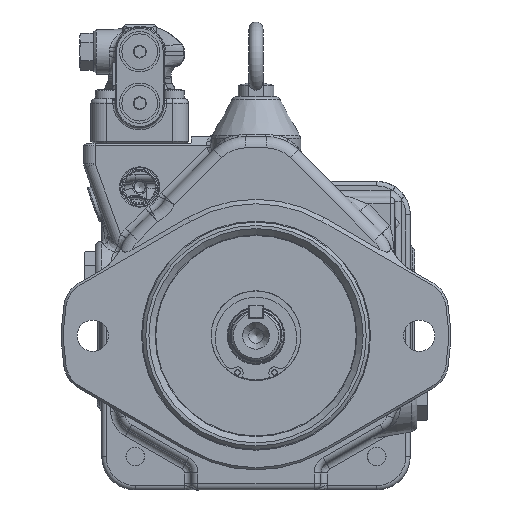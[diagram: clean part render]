
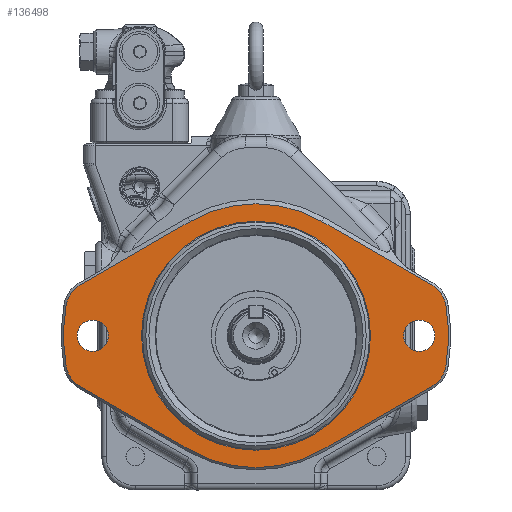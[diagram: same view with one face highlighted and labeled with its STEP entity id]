
A CAD part, front view. The second image highlights one B-rep face of the part: STEP entity #136498.
In plain terms, the highlighted planar face has unit normal (0, -1, 0).
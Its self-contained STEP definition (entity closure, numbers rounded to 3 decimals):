
#2661=FACE_BOUND('',#15117,.T.);
#2662=FACE_BOUND('',#15118,.T.);
#2663=FACE_BOUND('',#15119,.T.);
#8256=FACE_OUTER_BOUND('',#15116,.T.);
#15116=EDGE_LOOP('',(#113490,#113491,#113492,#113493,#113494,#113495,#113496,
#113497,#113498,#113499,#113500,#113501));
#15117=EDGE_LOOP('',(#113502));
#15118=EDGE_LOOP('',(#113503));
#15119=EDGE_LOOP('',(#113504));
#16539=CIRCLE('',#142835,86.);
#16541=CIRCLE('',#142838,13.);
#16543=CIRCLE('',#142841,13.);
#16545=CIRCLE('',#142844,59.);
#16848=CIRCLE('',#143489,59.);
#16849=CIRCLE('',#143492,13.);
#16850=CIRCLE('',#143494,86.);
#16851=CIRCLE('',#143496,13.);
#16870=CIRCLE('',#143528,7.);
#16871=CIRCLE('',#143529,7.);
#16872=CIRCLE('',#143530,51.2);
#32282=LINE('',#209617,#48560);
#32342=LINE('',#209902,#48620);
#32714=LINE('',#214752,#48992);
#32717=LINE('',#214760,#48995);
#48560=VECTOR('',#170168,10.);
#48620=VECTOR('',#170374,10.);
#48992=VECTOR('',#171882,10.);
#48995=VECTOR('',#171891,10.);
#60288=VERTEX_POINT('',#209587);
#60289=VERTEX_POINT('',#209588);
#60292=VERTEX_POINT('',#209596);
#60294=VERTEX_POINT('',#209602);
#60296=VERTEX_POINT('',#209608);
#60297=VERTEX_POINT('',#209609);
#60385=VERTEX_POINT('',#209901);
#60916=VERTEX_POINT('',#214751);
#60917=VERTEX_POINT('',#214755);
#60918=VERTEX_POINT('',#214759);
#60919=VERTEX_POINT('',#214763);
#60920=VERTEX_POINT('',#214767);
#60941=VERTEX_POINT('',#214838);
#60942=VERTEX_POINT('',#214840);
#60943=VERTEX_POINT('',#214842);
#77618=EDGE_CURVE('',#60288,#60289,#16539,.T.);
#77622=EDGE_CURVE('',#60289,#60292,#16541,.T.);
#77625=EDGE_CURVE('',#60294,#60288,#16543,.T.);
#77628=EDGE_CURVE('',#60296,#60297,#16545,.T.);
#77632=EDGE_CURVE('',#60292,#60296,#32282,.T.);
#77743=EDGE_CURVE('',#60297,#60385,#32342,.T.);
#78656=EDGE_CURVE('',#60916,#60294,#32714,.T.);
#78658=EDGE_CURVE('',#60917,#60916,#16848,.T.);
#78660=EDGE_CURVE('',#60918,#60917,#32717,.T.);
#78662=EDGE_CURVE('',#60919,#60918,#16849,.T.);
#78664=EDGE_CURVE('',#60920,#60919,#16850,.T.);
#78666=EDGE_CURVE('',#60385,#60920,#16851,.T.);
#78700=EDGE_CURVE('',#60941,#60941,#16870,.T.);
#78701=EDGE_CURVE('',#60942,#60942,#16871,.T.);
#78702=EDGE_CURVE('',#60943,#60943,#16872,.T.);
#113490=ORIENTED_EDGE('',*,*,#77625,.F.);
#113491=ORIENTED_EDGE('',*,*,#78656,.F.);
#113492=ORIENTED_EDGE('',*,*,#78658,.F.);
#113493=ORIENTED_EDGE('',*,*,#78660,.F.);
#113494=ORIENTED_EDGE('',*,*,#78662,.F.);
#113495=ORIENTED_EDGE('',*,*,#78664,.F.);
#113496=ORIENTED_EDGE('',*,*,#78666,.F.);
#113497=ORIENTED_EDGE('',*,*,#77743,.F.);
#113498=ORIENTED_EDGE('',*,*,#77628,.F.);
#113499=ORIENTED_EDGE('',*,*,#77632,.F.);
#113500=ORIENTED_EDGE('',*,*,#77622,.F.);
#113501=ORIENTED_EDGE('',*,*,#77618,.F.);
#113502=ORIENTED_EDGE('',*,*,#78700,.T.);
#113503=ORIENTED_EDGE('',*,*,#78701,.T.);
#113504=ORIENTED_EDGE('',*,*,#78702,.F.);
#124413=PLANE('',#143527);
#136498=ADVANCED_FACE('',(#8256,#2661,#2662,#2663),#124413,.F.);
#142835=AXIS2_PLACEMENT_3D('',#209589,#170138,#170139);
#142838=AXIS2_PLACEMENT_3D('',#209597,#170146,#170147);
#142841=AXIS2_PLACEMENT_3D('',#209603,#170153,#170154);
#142844=AXIS2_PLACEMENT_3D('',#209610,#170160,#170161);
#143489=AXIS2_PLACEMENT_3D('',#214756,#171886,#171887);
#143492=AXIS2_PLACEMENT_3D('',#214764,#171895,#171896);
#143494=AXIS2_PLACEMENT_3D('',#214768,#171900,#171901);
#143496=AXIS2_PLACEMENT_3D('',#214771,#171905,#171906);
#143527=AXIS2_PLACEMENT_3D('',#214837,#171982,#171983);
#143528=AXIS2_PLACEMENT_3D('',#214839,#171984,#171985);
#143529=AXIS2_PLACEMENT_3D('',#214841,#171986,#171987);
#143530=AXIS2_PLACEMENT_3D('',#214843,#171988,#171989);
#170138=DIRECTION('center_axis',(0.,1.,0.));
#170139=DIRECTION('ref_axis',(0.988,0.,-0.157));
#170146=DIRECTION('center_axis',(0.,1.,0.));
#170147=DIRECTION('ref_axis',(0.5,0.,-0.866));
#170153=DIRECTION('center_axis',(0.,1.,0.));
#170154=DIRECTION('ref_axis',(0.988,0.,0.157));
#170160=DIRECTION('center_axis',(0.,1.,0.));
#170161=DIRECTION('ref_axis',(-0.5,0.,-0.866));
#170168=DIRECTION('',(0.866,0.,0.5));
#170374=DIRECTION('',(0.866,0.,-0.5));
#171882=DIRECTION('',(-0.866,0.,0.5));
#171886=DIRECTION('center_axis',(0.,1.,0.));
#171887=DIRECTION('ref_axis',(0.5,0.,0.866));
#171891=DIRECTION('',(-0.866,0.,-0.5));
#171895=DIRECTION('center_axis',(0.,1.,0.));
#171896=DIRECTION('ref_axis',(-0.5,0.,0.866));
#171900=DIRECTION('center_axis',(0.,1.,0.));
#171901=DIRECTION('ref_axis',(-0.988,0.,0.157));
#171905=DIRECTION('center_axis',(0.,1.,0.));
#171906=DIRECTION('ref_axis',(-0.988,0.,-0.157));
#171982=DIRECTION('center_axis',(0.,1.,0.));
#171983=DIRECTION('ref_axis',(-1.,0.,0.));
#171984=DIRECTION('center_axis',(0.,1.,0.));
#171985=DIRECTION('ref_axis',(1.,0.,0.));
#171986=DIRECTION('center_axis',(0.,1.,0.));
#171987=DIRECTION('ref_axis',(1.,0.,0.));
#171988=DIRECTION('center_axis',(0.,-1.,0.));
#171989=DIRECTION('ref_axis',(0.,0.,-1.));
#209587=CARTESIAN_POINT('',(-84.927,-132.,-13.543));
#209588=CARTESIAN_POINT('',(-84.927,-132.,13.543));
#209589=CARTESIAN_POINT('Origin',(0.,-132.,0.));
#209596=CARTESIAN_POINT('',(-78.589,-132.,22.754));
#209597=CARTESIAN_POINT('Origin',(-72.089,-132.,11.496));
#209602=CARTESIAN_POINT('',(-78.589,-132.,-22.754));
#209603=CARTESIAN_POINT('Origin',(-72.089,-132.,-11.496));
#209608=CARTESIAN_POINT('',(-29.5,-132.,51.095));
#209609=CARTESIAN_POINT('',(29.5,-132.,51.095));
#209610=CARTESIAN_POINT('Origin',(0.,-132.,0.));
#209617=CARTESIAN_POINT('',(-43.046,-132.,43.275));
#209901=CARTESIAN_POINT('',(78.589,-132.,22.754));
#209902=CARTESIAN_POINT('',(18.501,-132.,57.445));
#214751=CARTESIAN_POINT('',(-29.5,-132.,-51.095));
#214752=CARTESIAN_POINT('',(-40.499,-132.,-44.745));
#214755=CARTESIAN_POINT('',(29.5,-132.,-51.095));
#214756=CARTESIAN_POINT('Origin',(0.,-132.,0.));
#214759=CARTESIAN_POINT('',(78.589,-132.,-22.754));
#214760=CARTESIAN_POINT('',(65.043,-132.,-30.575));
#214763=CARTESIAN_POINT('',(84.927,-132.,-13.543));
#214764=CARTESIAN_POINT('Origin',(72.089,-132.,-11.496));
#214767=CARTESIAN_POINT('',(84.927,-132.,13.543));
#214768=CARTESIAN_POINT('Origin',(0.,-132.,0.));
#214771=CARTESIAN_POINT('Origin',(72.089,-132.,11.496));
#214837=CARTESIAN_POINT('Origin',(0.,-132.,50.8));
#214838=CARTESIAN_POINT('',(-80.,-132.,0.));
#214839=CARTESIAN_POINT('Origin',(-73.,-132.,0.));
#214840=CARTESIAN_POINT('',(66.,-132.,0.));
#214841=CARTESIAN_POINT('Origin',(73.,-132.,0.));
#214842=CARTESIAN_POINT('',(51.2,-132.,0.));
#214843=CARTESIAN_POINT('Origin',(0.,-132.,0.));
